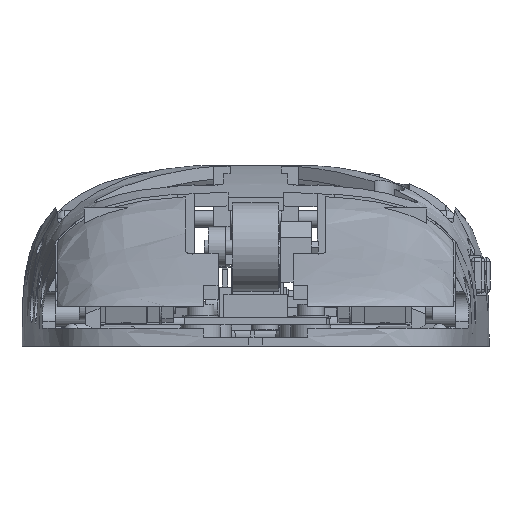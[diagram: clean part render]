
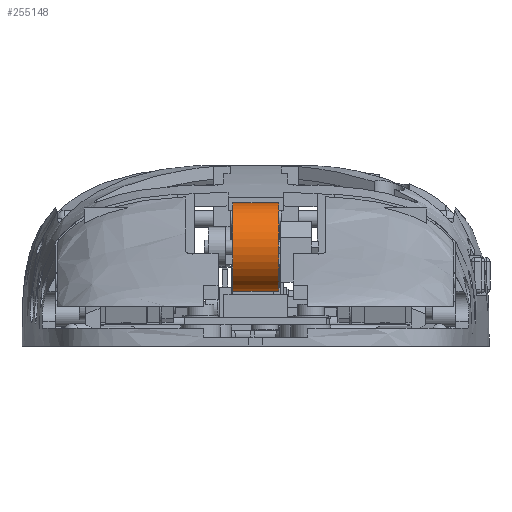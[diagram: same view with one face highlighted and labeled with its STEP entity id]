
A CAD part, front view. The second image highlights one B-rep face of the part: STEP entity #255148.
In plain terms, the highlighted cylindrical face has radius 6.25 mm (diameter 12.5 mm), a full revolution.
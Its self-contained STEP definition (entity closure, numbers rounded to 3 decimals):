
#255148 = ADVANCED_FACE('',(#255149),#255163,.T.);
#255149 = FACE_BOUND('',#255150,.T.);
#255150 = EDGE_LOOP('',(#255151,#255181,#255212,#255213));
#255151 = ORIENTED_EDGE('',*,*,#255152,.F.);
#255152 = EDGE_CURVE('',#255153,#255155,#255157,.T.);
#255153 = VERTEX_POINT('',#255154);
#255154 = CARTESIAN_POINT('',(3.25,28.,25.25));
#255155 = VERTEX_POINT('',#255156);
#255156 = CARTESIAN_POINT('',(-3.25,28.,25.25));
#255157 = SEAM_CURVE('',#255158,(#255162,#255174),.PCURVE_S1.);
#255158 = LINE('',#255159,#255160);
#255159 = CARTESIAN_POINT('',(3.25,28.,25.25));
#255160 = VECTOR('',#255161,1.);
#255161 = DIRECTION('',(-1.,-0.,-0.));
#255162 = PCURVE('',#255163,#255168);
#255163 = CYLINDRICAL_SURFACE('',#255164,6.25);
#255164 = AXIS2_PLACEMENT_3D('',#255165,#255166,#255167);
#255165 = CARTESIAN_POINT('',(3.25,28.,19.));
#255166 = DIRECTION('',(-1.,-0.,-0.));
#255167 = DIRECTION('',(-0.,0.,1.));
#255168 = DEFINITIONAL_REPRESENTATION('',(#255169),#255173);
#255169 = LINE('',#255170,#255171);
#255170 = CARTESIAN_POINT('',(0.,0.));
#255171 = VECTOR('',#255172,1.);
#255172 = DIRECTION('',(-0.,1.));
#255173 = ( GEOMETRIC_REPRESENTATION_CONTEXT(2) 
PARAMETRIC_REPRESENTATION_CONTEXT() REPRESENTATION_CONTEXT('2D SPACE',''
  ) );
#255174 = PCURVE('',#255163,#255175);
#255175 = DEFINITIONAL_REPRESENTATION('',(#255176),#255180);
#255176 = LINE('',#255177,#255178);
#255177 = CARTESIAN_POINT('',(6.283,0.));
#255178 = VECTOR('',#255179,1.);
#255179 = DIRECTION('',(-0.,1.));
#255180 = ( GEOMETRIC_REPRESENTATION_CONTEXT(2) 
PARAMETRIC_REPRESENTATION_CONTEXT() REPRESENTATION_CONTEXT('2D SPACE',''
  ) );
#255181 = ORIENTED_EDGE('',*,*,#255182,.F.);
#255182 = EDGE_CURVE('',#255153,#255153,#255183,.T.);
#255183 = SURFACE_CURVE('',#255184,(#255189,#255196),.PCURVE_S1.);
#255184 = CIRCLE('',#255185,6.25);
#255185 = AXIS2_PLACEMENT_3D('',#255186,#255187,#255188);
#255186 = CARTESIAN_POINT('',(3.25,28.,19.));
#255187 = DIRECTION('',(1.,0.,0.));
#255188 = DIRECTION('',(-0.,0.,1.));
#255189 = PCURVE('',#255163,#255190);
#255190 = DEFINITIONAL_REPRESENTATION('',(#255191),#255195);
#255191 = LINE('',#255192,#255193);
#255192 = CARTESIAN_POINT('',(6.283,0.));
#255193 = VECTOR('',#255194,1.);
#255194 = DIRECTION('',(-1.,0.));
#255195 = ( GEOMETRIC_REPRESENTATION_CONTEXT(2) 
PARAMETRIC_REPRESENTATION_CONTEXT() REPRESENTATION_CONTEXT('2D SPACE',''
  ) );
#255196 = PCURVE('',#255197,#255202);
#255197 = PLANE('',#255198);
#255198 = AXIS2_PLACEMENT_3D('',#255199,#255200,#255201);
#255199 = CARTESIAN_POINT('',(3.25,28.,19.));
#255200 = DIRECTION('',(-1.,-0.,-0.));
#255201 = DIRECTION('',(0.,0.,-1.));
#255202 = DEFINITIONAL_REPRESENTATION('',(#255203),#255211);
#255203 = ( BOUNDED_CURVE() B_SPLINE_CURVE(2,(#255204,#255205,#255206,
    #255207,#255208,#255209,#255210),.UNSPECIFIED.,.T.,.F.) 
B_SPLINE_CURVE_WITH_KNOTS((1,2,2,2,2,1),(-2.094,0.,
    2.094,4.189,6.283,8.378),
.UNSPECIFIED.) CURVE() GEOMETRIC_REPRESENTATION_ITEM() 
RATIONAL_B_SPLINE_CURVE((1.,0.5,1.,0.5,1.,0.5,1.)) REPRESENTATION_ITEM(
  '') );
#255204 = CARTESIAN_POINT('',(-6.25,0.));
#255205 = CARTESIAN_POINT('',(-6.25,10.825));
#255206 = CARTESIAN_POINT('',(3.125,5.413));
#255207 = CARTESIAN_POINT('',(12.5,0.));
#255208 = CARTESIAN_POINT('',(3.125,-5.413));
#255209 = CARTESIAN_POINT('',(-6.25,-10.825));
#255210 = CARTESIAN_POINT('',(-6.25,0.));
#255211 = ( GEOMETRIC_REPRESENTATION_CONTEXT(2) 
PARAMETRIC_REPRESENTATION_CONTEXT() REPRESENTATION_CONTEXT('2D SPACE',''
  ) );
#255212 = ORIENTED_EDGE('',*,*,#255152,.T.);
#255213 = ORIENTED_EDGE('',*,*,#255214,.T.);
#255214 = EDGE_CURVE('',#255155,#255155,#255215,.T.);
#255215 = SURFACE_CURVE('',#255216,(#255221,#255228),.PCURVE_S1.);
#255216 = CIRCLE('',#255217,6.25);
#255217 = AXIS2_PLACEMENT_3D('',#255218,#255219,#255220);
#255218 = CARTESIAN_POINT('',(-3.25,28.,19.));
#255219 = DIRECTION('',(1.,0.,0.));
#255220 = DIRECTION('',(-0.,0.,1.));
#255221 = PCURVE('',#255163,#255222);
#255222 = DEFINITIONAL_REPRESENTATION('',(#255223),#255227);
#255223 = LINE('',#255224,#255225);
#255224 = CARTESIAN_POINT('',(6.283,6.5));
#255225 = VECTOR('',#255226,1.);
#255226 = DIRECTION('',(-1.,0.));
#255227 = ( GEOMETRIC_REPRESENTATION_CONTEXT(2) 
PARAMETRIC_REPRESENTATION_CONTEXT() REPRESENTATION_CONTEXT('2D SPACE',''
  ) );
#255228 = PCURVE('',#255229,#255234);
#255229 = PLANE('',#255230);
#255230 = AXIS2_PLACEMENT_3D('',#255231,#255232,#255233);
#255231 = CARTESIAN_POINT('',(-3.25,28.,19.));
#255232 = DIRECTION('',(-1.,-0.,-0.));
#255233 = DIRECTION('',(0.,0.,-1.));
#255234 = DEFINITIONAL_REPRESENTATION('',(#255235),#255243);
#255235 = ( BOUNDED_CURVE() B_SPLINE_CURVE(2,(#255236,#255237,#255238,
    #255239,#255240,#255241,#255242),.UNSPECIFIED.,.T.,.F.) 
B_SPLINE_CURVE_WITH_KNOTS((1,2,2,2,2,1),(-2.094,0.,
    2.094,4.189,6.283,8.378),
.UNSPECIFIED.) CURVE() GEOMETRIC_REPRESENTATION_ITEM() 
RATIONAL_B_SPLINE_CURVE((1.,0.5,1.,0.5,1.,0.5,1.)) REPRESENTATION_ITEM(
  '') );
#255236 = CARTESIAN_POINT('',(-6.25,0.));
#255237 = CARTESIAN_POINT('',(-6.25,10.825));
#255238 = CARTESIAN_POINT('',(3.125,5.413));
#255239 = CARTESIAN_POINT('',(12.5,0.));
#255240 = CARTESIAN_POINT('',(3.125,-5.413));
#255241 = CARTESIAN_POINT('',(-6.25,-10.825));
#255242 = CARTESIAN_POINT('',(-6.25,0.));
#255243 = ( GEOMETRIC_REPRESENTATION_CONTEXT(2) 
PARAMETRIC_REPRESENTATION_CONTEXT() REPRESENTATION_CONTEXT('2D SPACE',''
  ) );
